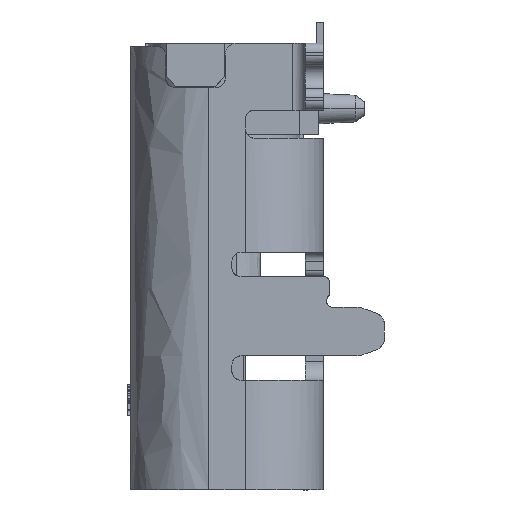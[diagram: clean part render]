
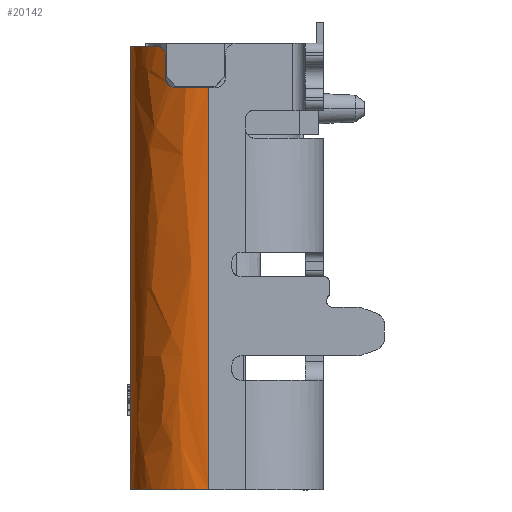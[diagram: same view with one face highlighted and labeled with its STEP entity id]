
A CAD part, left-side view. The second image highlights one B-rep face of the part: STEP entity #20142.
In plain terms, the highlighted free-form (B-spline) face has degree [3, 1] with [4, 2] control points.
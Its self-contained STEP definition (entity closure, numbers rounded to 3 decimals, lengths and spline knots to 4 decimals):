
#1897 = CARTESIAN_POINT ( 'NONE',  ( -94.3057, 0.8777, -64.2661 ) ) ;
#2716 = B_SPLINE_CURVE_WITH_KNOTS ( 'NONE', 3,
 ( #27271, #5658, #32447, #19066, #32809, #10839, #29967, #16564, #16214, #6011 ),
 .UNSPECIFIED., .F., .F.,
 ( 4, 2, 2, 2, 4 ),
 ( 0., 0.25, 0.5, 0.75, 1. ),
 .UNSPECIFIED. ) ;
#2941 = VERTEX_POINT ( 'NONE', #19840 ) ;
#3046 = B_SPLINE_CURVE_WITH_KNOTS ( 'NONE', 1,
 ( #20833, #26183 ),
 .UNSPECIFIED., .F., .F.,
 ( 2, 2 ),
 ( 0., 1. ),
 .UNSPECIFIED. ) ;
#3571 = CARTESIAN_POINT ( 'NONE',  ( -94.2277, 0.9995, -63.6507 ) ) ;
#3578 = CARTESIAN_POINT ( 'NONE',  ( -94.4278, 0.6296, -64.2831 ) ) ;
#3731 = CARTESIAN_POINT ( 'NONE',  ( -94.47, 0.25, -70.8827 ) ) ;
#3746 = CARTESIAN_POINT ( 'NONE',  ( -94.2555, 0.9594, -63.7138 ) ) ;
#4095 = CARTESIAN_POINT ( 'NONE',  ( -94.234, 0.9906, -63.6598 ) ) ;
#4151 =( BOUNDED_CURVE ( )  B_SPLINE_CURVE ( 1, ( #29135, #28433 ),
 .UNSPECIFIED., .F., .F. ) 
 B_SPLINE_CURVE_WITH_KNOTS ( ( 2, 2 ),
 ( 0., 1. ),
 .UNSPECIFIED. ) 
 CURVE ( )  GEOMETRIC_REPRESENTATION_ITEM ( )  RATIONAL_B_SPLINE_CURVE ( ( 0.862, 0.862 ) ) 
 REPRESENTATION_ITEM ( '' )  );
#4737 = CARTESIAN_POINT ( 'NONE',  ( -94.3243, 0.8434, -64.2797 ) ) ;
#4915 = B_SPLINE_CURVE_WITH_KNOTS ( 'NONE', 3,
 ( #26031, #28200, #3746, #20162, #25343, #4095, #3571, #22835, #33377, #33732 ),
 .UNSPECIFIED., .F., .F.,
 ( 4, 2, 2, 2, 4 ),
 ( 0., 0.25, 0.375, 0.5, 1. ),
 .UNSPECIFIED. ) ;
#5658 = CARTESIAN_POINT ( 'NONE',  ( -94.47, 0.4197, -70.8827 ) ) ;
#6011 = CARTESIAN_POINT ( 'NONE',  ( -93.19, 1.53, -70.8827 ) ) ;
#7188 = EDGE_LOOP ( 'NONE', ( #31745, #11751, #16228, #12877, #19275, #13802, #29834, #27379 ) ) ;
#8072 = CARTESIAN_POINT ( 'NONE',  ( -94.47, 0.25, -64.2831 ) ) ;
#8678 = EDGE_CURVE ( 'NONE', #34261, #33915, #20728, .T. ) ;
#8727 = CARTESIAN_POINT ( 'NONE',  ( -93.9398, 1.53, -71.6102 ) ) ;
#9552 = CARTESIAN_POINT ( 'NONE',  ( -94.2584, 0.955, -64.1331 ) ) ;
#9564 = CARTESIAN_POINT ( 'NONE',  ( -93.5486, 1.53, -63.6077 ) ) ;
#9912 = CARTESIAN_POINT ( 'NONE',  ( -94.1426, 1.105, -63.6077 ) ) ;
#10256 = EDGE_CURVE ( 'NONE', #24323, #14422, #4151, .T. ) ;
#10839 = CARTESIAN_POINT ( 'NONE',  ( -93.9751, 1.2751, -70.8827 ) ) ;
#11751 = ORIENTED_EDGE ( 'NONE', *, *, #32578, .F. ) ;
#11923 = CARTESIAN_POINT ( 'NONE',  ( -94.47, 0.9998, -62.8802 ) ) ;
#12877 = ORIENTED_EDGE ( 'NONE', *, *, #33430, .F. ) ;
#13672 = B_SPLINE_CURVE_WITH_KNOTS ( 'NONE', 3,
 ( #23481, #15634, #4737, #1897, #15283, #20641, #31169, #9552 ),
 .UNSPECIFIED., .F., .F.,
 ( 4, 2, 2, 4 ),
 ( 0., 0.25, 0.5, 1. ),
 .UNSPECIFIED. ) ;
#13802 = ORIENTED_EDGE ( 'NONE', *, *, #10256, .T. ) ;
#14422 = VERTEX_POINT ( 'NONE', #28529 ) ;
#14624 = CARTESIAN_POINT ( 'NONE',  ( -94.47, 0.9998, -71.6102 ) ) ;
#14635 = CARTESIAN_POINT ( 'NONE',  ( -94.47, 0.25, -64.2831 ) ) ;
#15283 = CARTESIAN_POINT ( 'NONE',  ( -94.2975, 0.8921, -64.2572 ) ) ;
#15634 = CARTESIAN_POINT ( 'NONE',  ( -94.3338, 0.8249, -64.2831 ) ) ;
#15840 = EDGE_CURVE ( 'NONE', #21044, #33915, #3046, .T. ) ;
#16214 = CARTESIAN_POINT ( 'NONE',  ( -93.3598, 1.53, -70.8827 ) ) ;
#16228 = ORIENTED_EDGE ( 'NONE', *, *, #34329, .T. ) ;
#16564 = CARTESIAN_POINT ( 'NONE',  ( -93.523, 1.4975, -70.8827 ) ) ;
#16787 = FACE_OUTER_BOUND ( 'NONE', #7188, .T. ) ;
#17139 = CARTESIAN_POINT ( 'NONE',  ( -93.19, 1.53, -62.8802 ) ) ;
#17146 = CARTESIAN_POINT ( 'NONE',  ( -94.2584, 0.955, -64.1331 ) ) ;
#19058 =( BOUNDED_SURFACE ( )  B_SPLINE_SURFACE ( 3, 1, ( 
 ( #19802, #17139 ),
 ( #8727, #23005 ),
 ( #14624, #11923 ),
 ( #33727, #33373 ) ),
 .UNSPECIFIED., .F., .F., .T. ) 
 B_SPLINE_SURFACE_WITH_KNOTS ( ( 4, 4 ),
 ( 2, 2 ),
 ( 0., 1. ),
 ( 0., 1. ),
 .UNSPECIFIED. ) 
 GEOMETRIC_REPRESENTATION_ITEM ( )  RATIONAL_B_SPLINE_SURFACE ( (
 ( 1., 1.),
 ( 0.805, 0.805),
 ( 0.805, 0.805),
 ( 1., 1.) ) ) 
 REPRESENTATION_ITEM ( '' )  SURFACE ( )  );
#19066 = CARTESIAN_POINT ( 'NONE',  ( -94.3076, 0.8966, -70.8827 ) ) ;
#19275 = ORIENTED_EDGE ( 'NONE', *, *, #20633, .T. ) ;
#19802 = CARTESIAN_POINT ( 'NONE',  ( -93.19, 1.53, -71.6102 ) ) ;
#19840 = CARTESIAN_POINT ( 'NONE',  ( -94.3434, 0.805, -64.2831 ) ) ;
#20064 = B_SPLINE_CURVE_WITH_KNOTS ( 'NONE', 1,
 ( #24682, #8072 ),
 .UNSPECIFIED., .F., .F.,
 ( 2, 2 ),
 ( 0., 1. ),
 .UNSPECIFIED. ) ;
#20142 = ADVANCED_FACE ( 'NONE', ( #16787 ), #19058, .T. ) ;
#20162 = CARTESIAN_POINT ( 'NONE',  ( -94.2467, 0.9724, -63.6855 ) ) ;
#20167 = CARTESIAN_POINT ( 'NONE',  ( -94.3434, 0.805, -64.2831 ) ) ;
#20468 = CARTESIAN_POINT ( 'NONE',  ( -93.19, 1.53, -63.6077 ) ) ;
#20633 = EDGE_CURVE ( 'NONE', #2941, #24323, #13672, .T. ) ;
#20641 = CARTESIAN_POINT ( 'NONE',  ( -94.269, 0.9397, -64.2123 ) ) ;
#20728 =( BOUNDED_CURVE ( )  B_SPLINE_CURVE ( 3, ( #9912, #20999, #9564, #20468 ),
 .UNSPECIFIED., .F., .F. ) 
 B_SPLINE_CURVE_WITH_KNOTS ( ( 4, 4 ),
 ( 0., 1. ),
 .UNSPECIFIED. ) 
 CURVE ( )  GEOMETRIC_REPRESENTATION_ITEM ( )  RATIONAL_B_SPLINE_CURVE ( ( 0.854, 0.847, 0.896, 1. ) ) 
 REPRESENTATION_ITEM ( '' )  );
#20833 = CARTESIAN_POINT ( 'NONE',  ( -93.19, 1.53, -70.8827 ) ) ;
#20999 = CARTESIAN_POINT ( 'NONE',  ( -93.8893, 1.3872, -63.6077 ) ) ;
#21044 = VERTEX_POINT ( 'NONE', #28467 ) ;
#21883 = CARTESIAN_POINT ( 'NONE',  ( -93.19, 1.53, -63.6077 ) ) ;
#22835 = CARTESIAN_POINT ( 'NONE',  ( -94.2018, 1.0348, -63.62 ) ) ;
#23005 = CARTESIAN_POINT ( 'NONE',  ( -93.9398, 1.53, -62.8802 ) ) ;
#23481 = CARTESIAN_POINT ( 'NONE',  ( -94.3434, 0.805, -64.2831 ) ) ;
#24323 = VERTEX_POINT ( 'NONE', #17146 ) ;
#24682 = CARTESIAN_POINT ( 'NONE',  ( -94.47, 0.25, -70.8827 ) ) ;
#25343 = CARTESIAN_POINT ( 'NONE',  ( -94.243, 0.9778, -63.6766 ) ) ;
#26031 = CARTESIAN_POINT ( 'NONE',  ( -94.2584, 0.955, -63.7577 ) ) ;
#26183 = CARTESIAN_POINT ( 'NONE',  ( -93.19, 1.53, -63.6077 ) ) ;
#27197 = CARTESIAN_POINT ( 'NONE',  ( -94.1426, 1.105, -63.6077 ) ) ;
#27271 = CARTESIAN_POINT ( 'NONE',  ( -94.47, 0.25, -70.8827 ) ) ;
#27379 = ORIENTED_EDGE ( 'NONE', *, *, #8678, .T. ) ;
#28200 = CARTESIAN_POINT ( 'NONE',  ( -94.2584, 0.955, -63.7347 ) ) ;
#28376 = CARTESIAN_POINT ( 'NONE',  ( -94.47, 0.4446, -64.2831 ) ) ;
#28382 = VERTEX_POINT ( 'NONE', #33346 ) ;
#28433 = CARTESIAN_POINT ( 'NONE',  ( -94.2584, 0.955, -63.7577 ) ) ;
#28467 = CARTESIAN_POINT ( 'NONE',  ( -93.19, 1.53, -70.8827 ) ) ;
#28529 = CARTESIAN_POINT ( 'NONE',  ( -94.2584, 0.955, -63.7577 ) ) ;
#29135 = CARTESIAN_POINT ( 'NONE',  ( -94.2584, 0.955, -64.1331 ) ) ;
#29442 = B_SPLINE_CURVE_WITH_KNOTS ( 'NONE', 3,
 ( #20167, #3578, #28376, #14635 ),
 .UNSPECIFIED., .F., .F.,
 ( 4, 4 ),
 ( 0., 1. ),
 .UNSPECIFIED. ) ;
#29834 = ORIENTED_EDGE ( 'NONE', *, *, #32348, .T. ) ;
#29967 = CARTESIAN_POINT ( 'NONE',  ( -93.8366, 1.3676, -70.8827 ) ) ;
#30702 = VERTEX_POINT ( 'NONE', #3731 ) ;
#31169 = CARTESIAN_POINT ( 'NONE',  ( -94.2584, 0.955, -64.1759 ) ) ;
#31745 = ORIENTED_EDGE ( 'NONE', *, *, #15840, .F. ) ;
#32348 = EDGE_CURVE ( 'NONE', #14422, #34261, #4915, .T. ) ;
#32447 = CARTESIAN_POINT ( 'NONE',  ( -94.4375, 0.583, -70.8827 ) ) ;
#32578 = EDGE_CURVE ( 'NONE', #30702, #21044, #2716, .T. ) ;
#32809 = CARTESIAN_POINT ( 'NONE',  ( -94.2151, 1.0351, -70.8827 ) ) ;
#33346 = CARTESIAN_POINT ( 'NONE',  ( -94.47, 0.25, -64.2831 ) ) ;
#33373 = CARTESIAN_POINT ( 'NONE',  ( -94.47, 0.25, -62.8802 ) ) ;
#33377 = CARTESIAN_POINT ( 'NONE',  ( -94.1757, 1.0681, -63.6077 ) ) ;
#33430 = EDGE_CURVE ( 'NONE', #2941, #28382, #29442, .T. ) ;
#33727 = CARTESIAN_POINT ( 'NONE',  ( -94.47, 0.25, -71.6102 ) ) ;
#33732 = CARTESIAN_POINT ( 'NONE',  ( -94.1426, 1.105, -63.6077 ) ) ;
#33915 = VERTEX_POINT ( 'NONE', #21883 ) ;
#34261 = VERTEX_POINT ( 'NONE', #27197 ) ;
#34329 = EDGE_CURVE ( 'NONE', #30702, #28382, #20064, .T. ) ;
